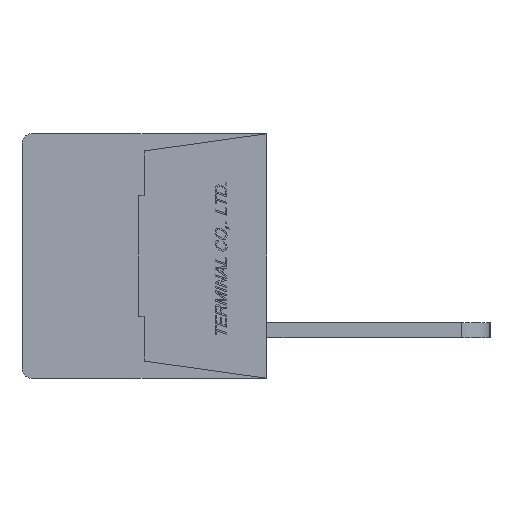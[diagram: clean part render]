
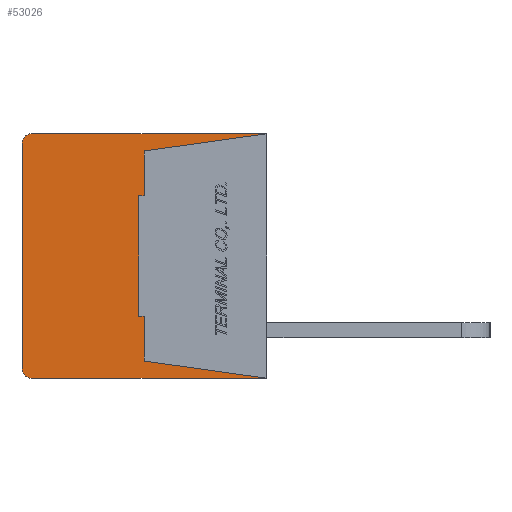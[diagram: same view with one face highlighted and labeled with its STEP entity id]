
A CAD part, left-side view. The second image highlights one B-rep face of the part: STEP entity #53026.
In plain terms, the highlighted planar face has unit normal (-1, 0, 0).
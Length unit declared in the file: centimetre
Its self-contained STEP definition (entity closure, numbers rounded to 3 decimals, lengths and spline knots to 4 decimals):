
#2479=CIRCLE('',#91090,0.05);
#2480=CIRCLE('',#91091,0.05);
#3329=VERTEX_POINT('',#70053);
#3330=VERTEX_POINT('',#70055);
#3331=VERTEX_POINT('',#70059);
#3332=VERTEX_POINT('',#70063);
#3333=VERTEX_POINT('',#70067);
#3334=VERTEX_POINT('',#70071);
#3335=VERTEX_POINT('',#70075);
#3336=VERTEX_POINT('',#70079);
#3337=VERTEX_POINT('',#70083);
#3338=VERTEX_POINT('',#70085);
#3339=VERTEX_POINT('',#70087);
#3340=VERTEX_POINT('',#70089);
#8886=VECTOR('',#59121,1.);
#8889=VECTOR('',#59125,1.);
#8891=VECTOR('',#59128,1.);
#8893=VECTOR('',#59131,1.);
#8895=VECTOR('',#59134,1.);
#8897=VECTOR('',#59137,1.);
#8899=VECTOR('',#59140,1.);
#8900=VECTOR('',#59142,1.);
#8901=VECTOR('',#59145,1.);
#8902=VECTOR('',#59148,1.);
#15172=LINE('',#70054,#8886);
#15175=LINE('',#70060,#8889);
#15177=LINE('',#70064,#8891);
#15179=LINE('',#70068,#8893);
#15181=LINE('',#70072,#8895);
#15183=LINE('',#70076,#8897);
#15185=LINE('',#70080,#8899);
#15186=LINE('',#70082,#8900);
#15187=LINE('',#70086,#8901);
#15188=LINE('',#70090,#8902);
#21589=EDGE_CURVE('',#3330,#3329,#15172,.T.);
#21592=EDGE_CURVE('',#3329,#3331,#15175,.T.);
#21594=EDGE_CURVE('',#3331,#3332,#15177,.T.);
#21596=EDGE_CURVE('',#3332,#3333,#15179,.T.);
#21598=EDGE_CURVE('',#3333,#3334,#15181,.T.);
#21600=EDGE_CURVE('',#3334,#3335,#15183,.T.);
#21602=EDGE_CURVE('',#3335,#3336,#15185,.T.);
#21603=EDGE_CURVE('',#3336,#3337,#15186,.T.);
#21604=EDGE_CURVE('',#3338,#3337,#2479,.T.);
#21605=EDGE_CURVE('',#3338,#3339,#15187,.T.);
#21606=EDGE_CURVE('',#3340,#3339,#2480,.T.);
#21607=EDGE_CURVE('',#3340,#3330,#15188,.T.);
#30414=ORIENTED_EDGE('',*,*,#21589,.T.);
#30415=ORIENTED_EDGE('',*,*,#21592,.T.);
#30416=ORIENTED_EDGE('',*,*,#21594,.T.);
#30417=ORIENTED_EDGE('',*,*,#21596,.T.);
#30418=ORIENTED_EDGE('',*,*,#21598,.T.);
#30419=ORIENTED_EDGE('',*,*,#21600,.T.);
#30420=ORIENTED_EDGE('',*,*,#21602,.T.);
#30421=ORIENTED_EDGE('',*,*,#21603,.T.);
#30422=ORIENTED_EDGE('',*,*,#21604,.F.);
#30423=ORIENTED_EDGE('',*,*,#21605,.T.);
#30424=ORIENTED_EDGE('',*,*,#21606,.F.);
#30425=ORIENTED_EDGE('',*,*,#21607,.T.);
#45820=EDGE_LOOP('',(#30414,#30415,#30416,#30417,#30418,#30419,#30420,#30421,
#30422,#30423,#30424,#30425));
#49440=FACE_BOUND('',#45820,.T.);
#53026=ADVANCED_FACE('',(#49440),#56201,.F.);
#56201=PLANE('',#91089);
#59121=DIRECTION('',(0.,0.99,0.139));
#59125=DIRECTION('',(0.,0.,1.));
#59128=DIRECTION('',(0.,1.,0.));
#59131=DIRECTION('',(0.,0.,1.));
#59134=DIRECTION('',(0.,-1.,0.));
#59137=DIRECTION('',(0.,0.,1.));
#59140=DIRECTION('',(0.,-0.99,0.139));
#59141=DIRECTION('',(1.,0.,0.));
#59142=DIRECTION('',(0.,1.,0.));
#59143=DIRECTION('',(1.,0.,0.));
#59144=DIRECTION('',(0.,0.,-0.05));
#59145=DIRECTION('',(0.,0.,-1.));
#59146=DIRECTION('',(1.,0.,0.));
#59147=DIRECTION('',(0.,0.,-0.05));
#59148=DIRECTION('',(0.,-1.,0.));
#70053=CARTESIAN_POINT('',(-1.,0.64,-0.55));
#70054=CARTESIAN_POINT('',(-1.,0.5152,-0.5675));
#70055=CARTESIAN_POINT('',(-1.,0.,-0.64));
#70059=CARTESIAN_POINT('',(-1.,0.64,-0.315));
#70060=CARTESIAN_POINT('',(-1.,0.64,-0.2163));
#70063=CARTESIAN_POINT('',(-1.,0.67,-0.315));
#70064=CARTESIAN_POINT('',(-1.,0.6447,-0.315));
#70067=CARTESIAN_POINT('',(-1.,0.67,0.315));
#70068=CARTESIAN_POINT('',(-1.,0.67,0.));
#70071=CARTESIAN_POINT('',(-1.,0.64,0.315));
#70072=CARTESIAN_POINT('',(-1.,0.6447,0.315));
#70075=CARTESIAN_POINT('',(-1.,0.64,0.55));
#70076=CARTESIAN_POINT('',(-1.,0.64,0.2163));
#70079=CARTESIAN_POINT('',(-1.,0.,0.64));
#70080=CARTESIAN_POINT('',(-1.,0.5152,0.5675));
#70081=CARTESIAN_POINT('',(-1.,0.6345,0.));
#70082=CARTESIAN_POINT('',(-1.,0.,0.64));
#70083=CARTESIAN_POINT('',(-1.,1.23,0.64));
#70084=CARTESIAN_POINT('',(-1.,1.23,0.59));
#70085=CARTESIAN_POINT('',(-1.,1.28,0.59));
#70086=CARTESIAN_POINT('',(-1.,1.28,0.59));
#70087=CARTESIAN_POINT('',(-1.,1.28,-0.59));
#70088=CARTESIAN_POINT('',(-1.,1.23,-0.59));
#70089=CARTESIAN_POINT('',(-1.,1.23,-0.64));
#70090=CARTESIAN_POINT('',(-1.,1.23,-0.64));
#91089=AXIS2_PLACEMENT_3D('',#70081,#59141,$);
#91090=AXIS2_PLACEMENT_3D('',#70084,#59143,#59144);
#91091=AXIS2_PLACEMENT_3D('',#70088,#59146,#59147);
